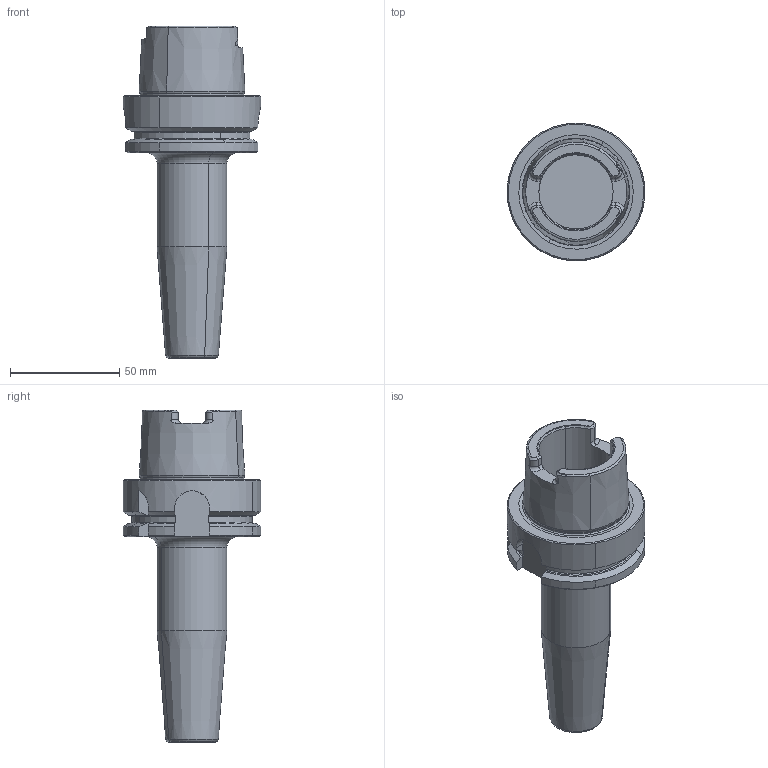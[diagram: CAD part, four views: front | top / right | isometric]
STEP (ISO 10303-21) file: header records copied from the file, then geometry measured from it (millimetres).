
FILE_DESCRIPTION(('CATIA V5 STEP','CAx-IF Rec.Pracs.--- Model Styling and Organization---1.2---2011-12-15'),'2;1');
FILE_NAME('\\nas01\drv1\utils\eitdev\rte\eit\transmagicconvert\db\out\4504019 L.stp','2014-03-30T06:51:00+00:00',('none'),('none'),'CATIA Version 5 Release 21 SP 5 (IN-10)','CATIA V5 STEP AP214','none');
FILE_SCHEMA(('AUTOMOTIVE_DESIGN { 1 0 10303 214 1 1 1 1 }'));
Length unit declared in the file: millimetre
Products named in the file (1): 60796123_0 Holder-Tool HSK A 63 SRKIN 10X120
Bounding box: 62.99 x 63 x 152 mm (x, y, z)
Volume: 157335.3 mm3; surface area: 29201.1 mm2
Topology: 1 solids, 1 shells, 136 faces, 349 edges, 218 vertices
Faces by surface type: plane 41, cone 35, cylinder 32, torus 28
Entity records: 4200 total; most frequent: CARTESIAN_POINT 1280, ORIENTED_EDGE 698, DIRECTION 432, EDGE_CURVE 349, AXIS2_PLACEMENT_3D 232, VERTEX_POINT 218, CIRCLE 151, EDGE_LOOP 139
